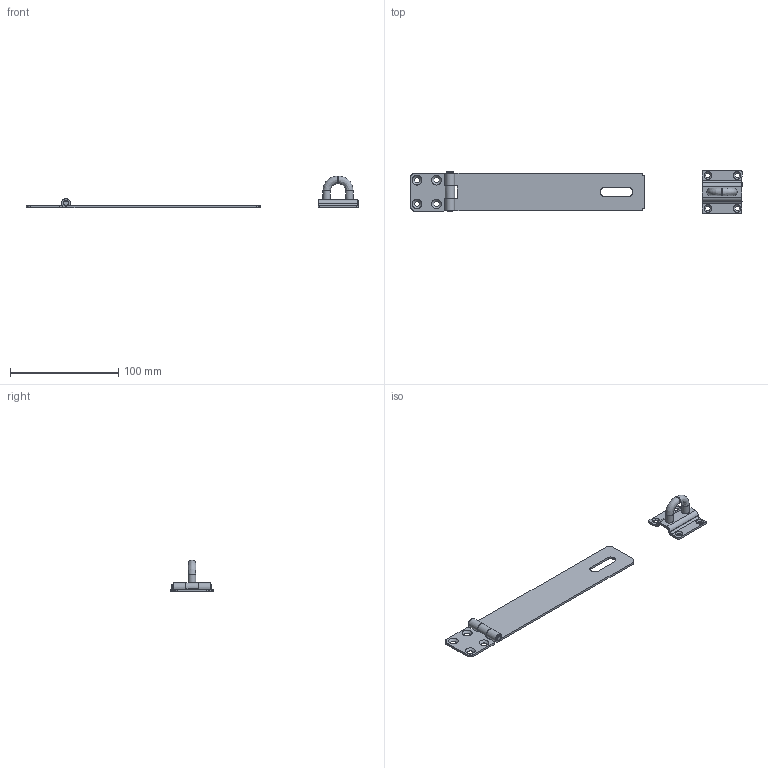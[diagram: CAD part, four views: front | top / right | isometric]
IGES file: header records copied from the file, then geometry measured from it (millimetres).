
Global section: file name: DR_GS1-9; native system: Autodesk Inventor 2015; preprocessor: unknown; author: CH.J; date: 20170831.102543; units: millimetre
Bounding box: 307.26 x 39.5 x 29.48 mm (x, y, z)
Volume: 21036.9 mm3; surface area: 22167.7 mm2
Topology: 4 solids, 4 shells, 117 faces, 297 edges, 192 vertices
Faces by surface type: bspline 117
